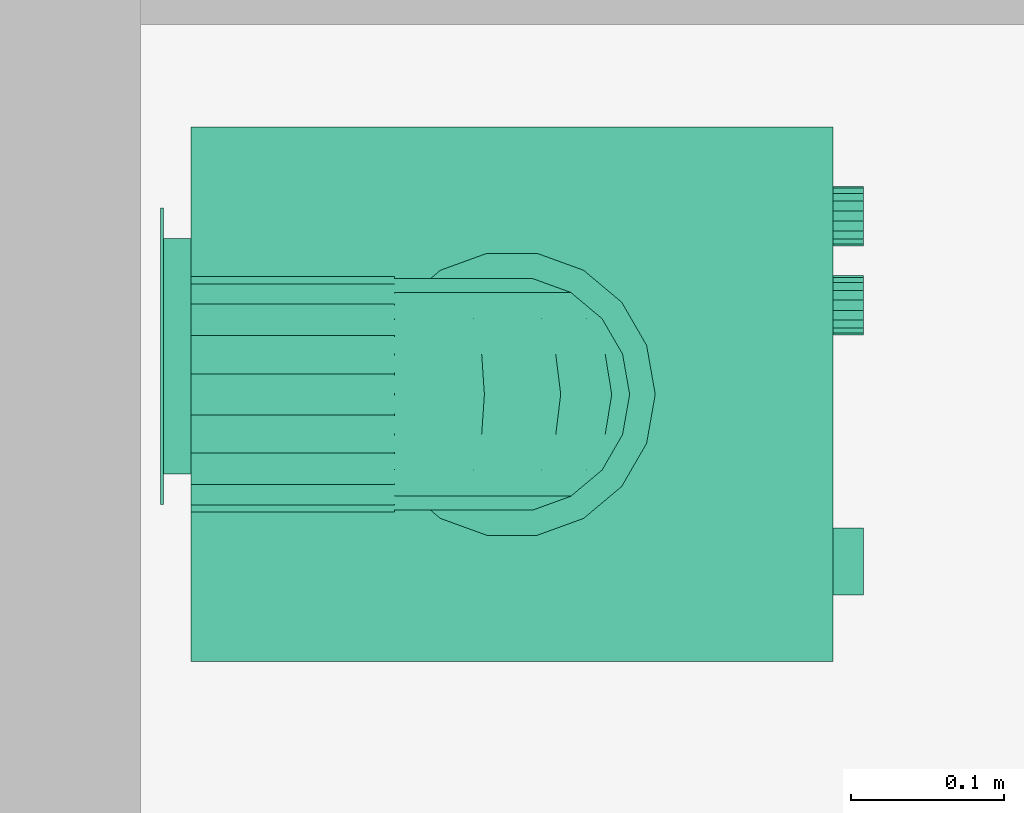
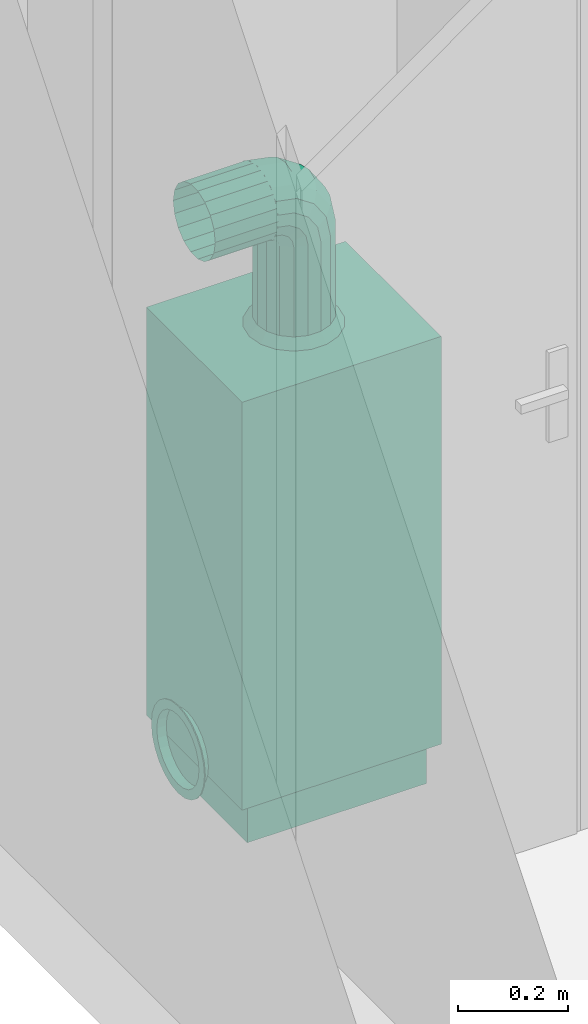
# One storey, part 121 of 171: 1 distribution element.
"""IFC2X3 building model written with IfcOpenShell, lengths in millimetres."""

from ifc_helpers import new_model, entity, si_unit, converted_unit, derived_unit, money_unit, direction, frame, origin_with_axes, place, context, subcontext, project, spatial, open_shell, faceted_brep, surface_model, source, transform, mapped, type_object, element, save


model = new_model("IFC2X3")

# Units and contexts
model_context = context("Model", 3, precision=0.01, world=origin_with_axes(), true_north=direction((0.0, 1.0)))
body_context = subcontext(model_context, "Body", "Model", "MODEL_VIEW")
ifc_project = project(units=[si_unit("LENGTHUNIT", "METRE", prefix="MILLI"), si_unit("AREAUNIT", "SQUARE_METRE"), si_unit("VOLUMEUNIT", "CUBIC_METRE"), converted_unit("PLANEANGLEUNIT", "DEGREE", entity("IfcPlaneAngleMeasure", 0.0174532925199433), si_unit("PLANEANGLEUNIT", "RADIAN"), dimensions=[0, 0, 0, 0, 0, 0, 0]), money_unit("USD"), converted_unit("TIMEUNIT", "Year", entity("IfcTimeMeasure", 31557600.0), si_unit("TIMEUNIT", "SECOND"), dimensions=[0, 0, 1, 0, 0, 0, 0]), si_unit("MASSUNIT", "GRAM", prefix="KILO"), si_unit("THERMODYNAMICTEMPERATUREUNIT", "DEGREE_CELSIUS"), si_unit("LUMINOUSINTENSITYUNIT", "LUMEN"), si_unit("ENERGYUNIT", "JOULE", prefix="MEGA"), derived_unit("THERMALCONDUCTANCEUNIT", [(si_unit("POWERUNIT", "WATT"), 1), (si_unit("LENGTHUNIT", "METRE"), -1), (si_unit("THERMODYNAMICTEMPERATUREUNIT", "KELVIN"), -1)]), derived_unit("SPECIFICHEATCAPACITYUNIT", [(si_unit("ENERGYUNIT", "JOULE"), 1), (si_unit("MASSUNIT", "GRAM", prefix="KILO"), -1), (si_unit("THERMODYNAMICTEMPERATUREUNIT", "KELVIN"), -1)]), derived_unit("MASSDENSITYUNIT", [(si_unit("MASSUNIT", "GRAM", prefix="KILO"), 1), (si_unit("VOLUMEUNIT", "CUBIC_METRE"), -1)])], contexts=[model_context])

# Site, building, storey
site_placement = place(None, origin_with_axes())
site = spatial("IfcSite", under=ifc_project, at=site_placement, Name="Site", CompositionType="ELEMENT")
building_placement = place(site_placement, origin_with_axes())
building = spatial("IfcBuilding", under=site, at=building_placement, Name="Bâtiment", CompositionType="ELEMENT")
storey_placement = place(building_placement, frame((0.0, 0.0, 3000.0), z_axis=(0.0, 0.0, 1.0), x_axis=(1.0, 0.0, 0.0)))
storey = spatial("IfcBuildingStorey", under=building, at=storey_placement, Name="rdc", CompositionType="ELEMENT", Elevation=3000.0)

# Distribution element
distribution_element_type = type_object("IfcDistributionElementType", Name="Chaudière à gaz 27")
shared_shape = source(origin_with_axes(), body_context, "Body", "SurfaceModel", [
    surface_model("IfcShellBasedSurfaceModel", [(200.0, 420.0, 34.90909090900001), (180.0709335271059, 420.0, 37.53280228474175), (180.0709335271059, 438.0, 37.53280228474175), (200.0, 438.0, 34.90909090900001), (161.5, 420.0, 45.22513481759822), (161.5, 438.0, 45.22513481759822), (219.9290664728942, 420.0, 37.53280228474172), (219.9290664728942, 438.0, 37.53280228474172), (145.5527778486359, 420.0, 57.46186875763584), (145.5527778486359, 438.0, 57.46186875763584), (238.5000000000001, 420.0, 45.22513481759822), (238.5000000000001, 438.0, 45.22513481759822), (133.3160439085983, 420.0, 73.409090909), (133.3160439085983, 438.0, 73.409090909), (254.4472221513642, 420.0, 57.46186875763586), (254.4472221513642, 438.0, 57.46186875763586), (125.6237113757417, 420.0, 91.9800244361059), (125.6237113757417, 438.0, 91.9800244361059), (266.6839560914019, 420.0, 73.40909090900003), (266.6839560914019, 438.0, 73.40909090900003), (123.0, 420.0, 111.909090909), (123.0, 438.0, 111.909090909), (274.3762886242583, 420.0, 91.98002443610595), (274.3762886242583, 438.0, 91.98002443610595), (125.6237113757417, 420.0, 131.8381573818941), (125.6237113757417, 438.0, 131.8381573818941), (277.0, 420.0, 111.909090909), (277.0, 438.0, 111.909090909), (133.3160439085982, 420.0, 150.409090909), (133.3160439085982, 438.0, 150.409090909), (274.3762886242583, 420.0, 131.8381573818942), (274.3762886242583, 438.0, 131.8381573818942), (145.5527778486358, 420.0, 166.3563130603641), (145.5527778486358, 438.0, 166.3563130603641), (266.6839560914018, 420.0, 150.4090909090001), (266.6839560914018, 438.0, 150.4090909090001), (161.5, 420.0, 178.5930470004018), (161.5, 438.0, 178.5930470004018), (254.4472221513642, 420.0, 166.3563130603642), (254.4472221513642, 438.0, 166.3563130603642), (180.0709335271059, 420.0, 186.2853795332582), (180.0709335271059, 438.0, 186.2853795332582), (238.5, 420.0, 178.5930470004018), (238.5, 438.0, 178.5930470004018), (200.0, 420.0, 188.909090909), (200.0, 438.0, 188.909090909), (219.929066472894, 420.0, 186.2853795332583), (219.929066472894, 438.0, 186.2853795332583)], [open_shell([[[0, 1, 2, 3]], [[1, 4, 5, 2]], [[6, 0, 3, 7]], [[4, 8, 9, 5]], [[10, 6, 7, 11]], [[8, 12, 13, 9]], [[14, 10, 11, 15]], [[12, 16, 17, 13]], [[18, 14, 15, 19]], [[16, 20, 21, 17]], [[22, 18, 19, 23]], [[20, 24, 25, 21]], [[26, 22, 23, 27]], [[24, 28, 29, 25]], [[30, 26, 27, 31]], [[28, 32, 33, 29]], [[34, 30, 31, 35]], [[32, 36, 37, 33]], [[38, 34, 35, 39]], [[36, 40, 41, 37]], [[42, 38, 39, 43]], [[40, 44, 45, 41]], [[46, 42, 43, 47]], [[44, 46, 47, 45]]])]),
    faceted_brep([(200.0, 438.0, 14.909090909), (174.8945526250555, 438.0, 18.21428575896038), (174.8945526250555, 440.0, 18.21428575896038), (200.0, 440.0, 14.909090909), (225.1054473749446, 438.0, 18.21428575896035), (248.5000000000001, 438.0, 27.90462674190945), (268.5893577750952, 438.0, 43.31973313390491), (284.0044641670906, 438.0, 63.40909090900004), (293.6948051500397, 438.0, 86.80364353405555), (297.0000000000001, 438.0, 111.909090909), (293.6948051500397, 438.0, 137.0145382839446), (284.0044641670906, 438.0, 160.4090909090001), (268.5893577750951, 438.0, 180.4984486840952), (248.5, 438.0, 195.9135550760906), (225.1054473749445, 438.0, 205.6038960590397), (199.9999999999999, 438.0, 208.909090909), (174.8945526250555, 438.0, 205.6038960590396), (151.5, 438.0, 195.9135550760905), (131.4106422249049, 438.0, 180.4984486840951), (115.9955358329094, 438.0, 160.409090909), (106.3051948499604, 438.0, 137.0145382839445), (103.0, 438.0, 111.909090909), (106.3051948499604, 438.0, 86.80364353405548), (115.9955358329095, 438.0, 63.40909090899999), (131.4106422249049, 438.0, 43.31973313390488), (151.5, 438.0, 27.90462674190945), (200.0, 438.0, 34.90909090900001), (180.0709335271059, 438.0, 37.53280228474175), (161.5, 438.0, 45.22513481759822), (145.5527778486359, 438.0, 57.46186875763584), (133.3160439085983, 438.0, 73.409090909), (125.6237113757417, 438.0, 91.9800244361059), (123.0, 438.0, 111.909090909), (125.6237113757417, 438.0, 131.8381573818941), (133.3160439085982, 438.0, 150.409090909), (145.5527778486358, 438.0, 166.3563130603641), (161.5, 438.0, 178.5930470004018), (180.0709335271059, 438.0, 186.2853795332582), (200.0, 438.0, 188.909090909), (219.929066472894, 438.0, 186.2853795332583), (238.5, 438.0, 178.5930470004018), (254.4472221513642, 438.0, 166.3563130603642), (266.6839560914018, 438.0, 150.4090909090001), (274.3762886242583, 438.0, 131.8381573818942), (277.0, 438.0, 111.909090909), (274.3762886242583, 438.0, 91.98002443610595), (266.6839560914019, 438.0, 73.40909090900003), (254.4472221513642, 438.0, 57.46186875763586), (238.5000000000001, 438.0, 45.22513481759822), (219.9290664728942, 438.0, 37.53280228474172), (151.5, 440.0, 27.90462674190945), (131.4106422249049, 440.0, 43.31973313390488), (115.9955358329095, 440.0, 63.40909090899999), (106.3051948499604, 440.0, 86.80364353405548), (103.0, 440.0, 111.909090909), (106.3051948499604, 440.0, 137.0145382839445), (115.9955358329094, 440.0, 160.409090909), (131.4106422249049, 440.0, 180.4984486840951), (151.5, 440.0, 195.9135550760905), (174.8945526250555, 440.0, 205.6038960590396), (199.9999999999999, 440.0, 208.909090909), (225.1054473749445, 440.0, 205.6038960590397), (248.5, 440.0, 195.9135550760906), (268.5893577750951, 440.0, 180.4984486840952), (284.0044641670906, 440.0, 160.4090909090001), (293.6948051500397, 440.0, 137.0145382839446), (297.0000000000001, 440.0, 111.909090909), (293.6948051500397, 440.0, 86.80364353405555), (284.0044641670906, 440.0, 63.40909090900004), (268.5893577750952, 440.0, 43.31973313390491), (248.5000000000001, 440.0, 27.90462674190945), (225.1054473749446, 440.0, 18.21428575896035), (200.0, 440.0, 34.90909090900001), (219.9290664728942, 440.0, 37.53280228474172), (238.5000000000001, 440.0, 45.22513481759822), (254.4472221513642, 440.0, 57.46186875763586), (266.6839560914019, 440.0, 73.40909090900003), (274.3762886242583, 440.0, 91.98002443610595), (277.0, 440.0, 111.909090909), (274.3762886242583, 440.0, 131.8381573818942), (266.6839560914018, 440.0, 150.4090909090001), (254.4472221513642, 440.0, 166.3563130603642), (238.5, 440.0, 178.5930470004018), (219.929066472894, 440.0, 186.2853795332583), (200.0, 440.0, 188.909090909), (180.0709335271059, 440.0, 186.2853795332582), (161.5, 440.0, 178.5930470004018), (145.5527778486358, 440.0, 166.3563130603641), (133.3160439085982, 440.0, 150.409090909), (125.6237113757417, 440.0, 131.8381573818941), (123.0, 440.0, 111.909090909), (125.6237113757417, 440.0, 91.9800244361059), (133.3160439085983, 440.0, 73.409090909), (145.5527778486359, 440.0, 57.46186875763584), (161.5, 440.0, 45.22513481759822), (180.0709335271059, 440.0, 37.53280228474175)], [[[0, 1, 2, 3]], [[0, 4, 5, 6, 7, 8, 9, 10, 11, 12, 13, 14, 15, 16, 17, 18, 19, 20, 21, 22, 23, 24, 25, 1], [26, 27, 28, 29, 30, 31, 32, 33, 34, 35, 36, 37, 38, 39, 40, 41, 42, 43, 44, 45, 46, 47, 48, 49]], [[1, 25, 50, 2]], [[3, 2, 50, 51, 52, 53, 54, 55, 56, 57, 58, 59, 60, 61, 62, 63, 64, 65, 66, 67, 68, 69, 70, 71], [72, 73, 74, 75, 76, 77, 78, 79, 80, 81, 82, 83, 84, 85, 86, 87, 88, 89, 90, 91, 92, 93, 94, 95]], [[4, 0, 3, 71]], [[5, 4, 71, 70]], [[6, 5, 70, 69]], [[7, 6, 69, 68]], [[8, 7, 68, 67]], [[9, 8, 67, 66]], [[10, 9, 66, 65]], [[11, 10, 65, 64]], [[12, 11, 64, 63]], [[13, 12, 63, 62]], [[14, 13, 62, 61]], [[15, 14, 61, 60]], [[16, 15, 60, 59]], [[17, 16, 59, 58]], [[18, 17, 58, 57]], [[19, 18, 57, 56]], [[20, 19, 56, 55]], [[21, 20, 55, 54]], [[22, 21, 54, 53]], [[23, 22, 53, 52]], [[24, 23, 52, 51]], [[25, 24, 51, 50]], [[27, 26, 72, 95]], [[28, 27, 95, 94]], [[29, 28, 94, 93]], [[30, 29, 93, 92]], [[31, 30, 92, 91]], [[32, 31, 91, 90]], [[33, 32, 90, 89]], [[34, 33, 89, 88]], [[35, 34, 88, 87]], [[36, 35, 87, 86]], [[37, 36, 86, 85]], [[38, 37, 85, 84]], [[39, 38, 84, 83]], [[40, 39, 83, 82]], [[41, 40, 82, 81]], [[42, 41, 81, 80]], [[43, 42, 80, 79]], [[44, 43, 79, 78]], [[45, 44, 78, 77]], [[46, 45, 77, 76]], [[47, 46, 76, 75]], [[48, 47, 75, 74]], [[49, 48, 74, 73]], [[26, 49, 73, 72]]]),
    faceted_brep([(332.5, 21.0, 0.0), (17.5, 21.0, 0.0), (17.5, 399.0, 0.0), (332.5, 399.0, 0.0), (332.5, 21.0, 90.9090909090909), (17.5, 21.0, 90.9090909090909), (17.5, 399.0, 90.9090909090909), (332.5, 399.0, 90.9090909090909)], [[[0, 1, 2, 3]], [[1, 0, 4, 5]], [[2, 1, 5, 6]], [[3, 2, 6, 7]], [[0, 3, 7, 4]], [[5, 4, 7, 6]]]),
    faceted_brep([(0.0, 420.0, 90.9090909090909), (0.0, 420.0, 1000.0), (349.9999999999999, 420.0, 1000.0), (350.0, 420.0, 90.90909090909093), (0.0, 0.0, 90.9090909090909), (0.0, 0.0, 818.1818181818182), (0.0, 21.0, 818.1818181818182), (0.0, 21.0, 1000.0), (349.9999999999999, 21.0, 1000.0), (349.9999999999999, 21.0, 818.1818181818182), (349.9999999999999, 0.0, 818.1818181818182), (350.0, 0.0, 90.90909090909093)], [[[0, 1, 2, 3]], [[0, 4, 5, 6, 7, 1]], [[1, 7, 8, 2]], [[3, 2, 8, 9, 10, 11]], [[4, 0, 3, 11]], [[5, 4, 11, 10]], [[6, 5, 10, 9]], [[7, 6, 9, 8]]]),
    faceted_brep([(350.0, 0.0, 818.1818181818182), (0.0, 0.0, 818.1818181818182), (0.0, 21.0, 818.1818181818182), (350.0, 21.0, 818.1818181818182), (350.0, 0.0, 1000.0), (0.0, 0.0, 1000.0), (0.0, 21.0, 1000.0), (350.0, 21.0, 1000.0)], [[[0, 1, 2, 3]], [[1, 0, 4, 5]], [[2, 1, 5, 6]], [[3, 2, 6, 7]], [[0, 3, 7, 4]], [[5, 4, 7, 6]]]),
    faceted_brep([(251.6051342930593, 0.0, 902.4405174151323), (248.2286419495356, 0.0, 896.592261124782), (243.0555555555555, 0.0, 892.2515262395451), (236.709825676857, 0.0, 889.9418694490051), (229.9568409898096, 0.0, 889.9418694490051), (223.6111111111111, 0.0, 892.2515262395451), (218.438024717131, 0.0, 896.5922611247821), (215.0615323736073, 0.0, 902.4405174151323), (213.8888888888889, 0.0, 909.0909090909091), (215.0615323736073, 0.0, 915.741300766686), (218.438024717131, 0.0, 921.5895570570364), (223.6111111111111, 0.0, 925.9302919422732), (229.9568409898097, 0.0, 928.2399487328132), (236.709825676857, 0.0, 928.2399487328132), (243.0555555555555, 0.0, 925.9302919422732), (248.2286419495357, 0.0, 921.5895570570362), (251.6051342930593, 0.0, 915.741300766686), (252.7777777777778, 0.0, 909.0909090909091), (251.6051342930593, -19.99999999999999, 902.4405174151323), (248.2286419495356, -19.99999999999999, 896.592261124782), (243.0555555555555, -19.99999999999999, 892.2515262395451), (236.709825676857, -19.99999999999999, 889.9418694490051), (229.9568409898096, -19.99999999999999, 889.9418694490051), (223.6111111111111, -19.99999999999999, 892.2515262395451), (218.438024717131, -19.99999999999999, 896.5922611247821), (215.0615323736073, -19.99999999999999, 902.4405174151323), (213.8888888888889, -19.99999999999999, 909.0909090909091), (215.0615323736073, -19.99999999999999, 915.741300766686), (218.438024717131, -19.99999999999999, 921.5895570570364), (223.6111111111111, -19.99999999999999, 925.9302919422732), (229.9568409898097, -19.99999999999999, 928.2399487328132), (236.709825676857, -19.99999999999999, 928.2399487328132), (243.0555555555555, -19.99999999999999, 925.9302919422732), (248.2286419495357, -19.99999999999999, 921.5895570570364), (251.6051342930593, -19.99999999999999, 915.741300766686), (252.7777777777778, -19.99999999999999, 909.0909090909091)], [[[0, 1, 2, 3, 4, 5, 6, 7, 8, 9, 10, 11, 12, 13, 14, 15, 16, 17]], [[1, 0, 18, 19]], [[2, 1, 19, 20]], [[3, 2, 20, 21]], [[4, 3, 21, 22]], [[5, 4, 22, 23]], [[6, 5, 23, 24]], [[7, 6, 24, 25]], [[8, 7, 25, 26]], [[9, 8, 26, 27]], [[10, 9, 27, 28]], [[11, 10, 28, 29]], [[12, 11, 29, 30]], [[13, 12, 30, 31]], [[14, 13, 31, 32]], [[15, 14, 32, 33]], [[16, 15, 33, 34]], [[17, 16, 34, 35]], [[0, 17, 35, 18]], [[18, 35, 34, 33, 32, 31, 30, 29, 28, 27, 26, 25, 24, 23, 22, 21, 20, 19]]]),
    faceted_brep([(309.9384676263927, 0.0, 902.4405174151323), (306.561975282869, 0.0, 896.592261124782), (301.3888888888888, 0.0, 892.2515262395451), (295.0431590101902, 0.0, 889.9418694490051), (288.290174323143, 0.0, 889.9418694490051), (281.9444444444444, 0.0, 892.2515262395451), (276.7713580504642, 0.0, 896.5922611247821), (273.3948657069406, 0.0, 902.4405174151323), (272.2222222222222, 0.0, 909.0909090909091), (273.3948657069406, 0.0, 915.741300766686), (276.7713580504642, 0.0, 921.5895570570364), (281.9444444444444, 0.0, 925.9302919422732), (288.290174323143, 0.0, 928.2399487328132), (295.0431590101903, 0.0, 928.2399487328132), (301.3888888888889, 0.0, 925.9302919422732), (306.561975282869, 0.0, 921.5895570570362), (309.9384676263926, 0.0, 915.741300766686), (311.1111111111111, 0.0, 909.0909090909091), (309.9384676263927, -19.99999999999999, 902.4405174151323), (306.561975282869, -19.99999999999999, 896.592261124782), (301.3888888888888, -19.99999999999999, 892.2515262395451), (295.0431590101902, -19.99999999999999, 889.9418694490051), (288.290174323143, -19.99999999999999, 889.9418694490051), (281.9444444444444, -19.99999999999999, 892.2515262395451), (276.7713580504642, -19.99999999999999, 896.5922611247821), (273.3948657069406, -19.99999999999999, 902.4405174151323), (272.2222222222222, -19.99999999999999, 909.0909090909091), (273.3948657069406, -19.99999999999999, 915.741300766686), (276.7713580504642, -19.99999999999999, 921.5895570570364), (281.9444444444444, -19.99999999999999, 925.9302919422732), (288.290174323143, -19.99999999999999, 928.2399487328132), (295.0431590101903, -19.99999999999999, 928.2399487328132), (301.3888888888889, -19.99999999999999, 925.9302919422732), (306.561975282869, -19.99999999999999, 921.5895570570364), (309.9384676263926, -19.99999999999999, 915.741300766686), (311.1111111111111, -19.99999999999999, 909.0909090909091)], [[[0, 1, 2, 3, 4, 5, 6, 7, 8, 9, 10, 11, 12, 13, 14, 15, 16, 17]], [[1, 0, 18, 19]], [[2, 1, 19, 20]], [[3, 2, 20, 21]], [[4, 3, 21, 22]], [[5, 4, 22, 23]], [[6, 5, 23, 24]], [[7, 6, 24, 25]], [[8, 7, 25, 26]], [[9, 8, 26, 27]], [[10, 9, 27, 28]], [[11, 10, 28, 29]], [[12, 11, 29, 30]], [[13, 12, 30, 31]], [[14, 13, 31, 32]], [[15, 14, 32, 33]], [[16, 15, 33, 34]], [[17, 16, 34, 35]], [[0, 17, 35, 18]], [[18, 35, 34, 33, 32, 31, 30, 29, 28, 27, 26, 25, 24, 23, 22, 21, 20, 19]]]),
    faceted_brep([(87.5, 0.0, 878.7878787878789), (43.75, 0.0, 878.7878787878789), (43.75, 0.0, 939.3939393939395), (87.5, 0.0, 939.3939393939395), (87.5, -20.0, 878.7878787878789), (43.75, -20.0, 878.7878787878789), (43.75, -19.99999999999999, 939.3939393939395), (87.5, -19.99999999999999, 939.3939393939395)], [[[0, 1, 2, 3]], [[1, 0, 4, 5]], [[2, 1, 5, 6]], [[3, 2, 6, 7]], [[0, 3, 7, 4]], [[5, 4, 7, 6]]]),
    surface_model("IfcShellBasedSurfaceModel", [(148.6644489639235, 282.356331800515, 1220.0), (175.0, 287.0, 1220.0), (175.0, 287.0, 1020.0), (148.6644489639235, 282.356331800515, 1020.0), (201.3355510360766, 282.356331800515, 1220.0), (201.3355510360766, 282.356331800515, 1020.0), (175.0, 303.7499999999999, 1000.0), (142.9356115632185, 298.0961831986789, 1000.0), (125.5053540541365, 268.9854221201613, 1220.0), (125.5053540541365, 268.9854221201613, 1020.0), (224.4946459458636, 268.9854221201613, 1220.0), (224.4946459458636, 268.9854221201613, 1020.0), (207.0643884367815, 298.0961831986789, 1000.0), (114.7386615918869, 281.8166665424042, 1000.0), (108.3160439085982, 248.5, 1220.0), (108.3160439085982, 248.5, 1020.0), (241.6839560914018, 248.4999999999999, 1220.0), (241.6839560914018, 248.4999999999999, 1020.0), (235.2613384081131, 281.8166665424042, 1000.0), (93.81011839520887, 256.8749999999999, 1000.0), (99.16980301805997, 223.3709096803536, 1220.0), (99.16980301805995, 223.3709096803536, 1020.0), (250.8301969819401, 223.3709096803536, 1220.0), (250.83019698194, 223.3709096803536, 1020.0), (256.1898816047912, 256.8749999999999, 1000.0), (82.6742731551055, 226.2795166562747, 1000.0), (99.16980301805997, 196.6290903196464, 1220.0), (99.16980301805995, 196.6290903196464, 1020.0), (250.83019698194, 196.6290903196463, 1220.0), (250.83019698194, 196.6290903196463, 1020.0), (267.3257268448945, 226.2795166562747, 1000.0), (82.67427315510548, 193.7204833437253, 1000.0), (108.3160439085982, 171.5, 1220.0), (108.3160439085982, 171.5, 1020.0), (241.6839560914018, 171.4999999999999, 1220.0), (241.6839560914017, 171.4999999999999, 1020.0), (267.3257268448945, 193.7204833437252, 1000.0), (93.81011839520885, 163.125, 1000.0), (125.5053540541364, 151.0145778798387, 1220.0), (125.5053540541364, 151.0145778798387, 1020.0), (224.4946459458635, 151.0145778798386, 1220.0), (224.4946459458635, 151.0145778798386, 1020.0), (256.1898816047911, 163.1249999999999, 1000.0), (114.7386615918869, 138.1833334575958, 1000.0), (148.6644489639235, 137.643668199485, 1220.0), (148.6644489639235, 137.643668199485, 1020.0), (201.3355510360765, 137.643668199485, 1220.0), (201.3355510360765, 137.643668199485, 1020.0), (235.261338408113, 138.1833334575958, 1000.0), (142.9356115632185, 121.9038168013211, 1000.0), (175.0, 133.0, 1220.0), (175.0, 133.0, 1020.0), (207.0643884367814, 121.9038168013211, 1000.0), (175.0, 116.25, 1000.0)], [open_shell([[[0, 1, 2, 3]], [[1, 4, 5, 2]], [[3, 2, 6, 7]], [[8, 0, 3, 9]], [[4, 10, 11, 5]], [[2, 5, 12, 6]], [[9, 3, 7, 13]], [[14, 8, 9, 15]], [[10, 16, 17, 11]], [[5, 11, 18, 12]], [[15, 9, 13, 19]], [[20, 14, 15, 21]], [[16, 22, 23, 17]], [[11, 17, 24, 18]], [[21, 15, 19, 25]], [[26, 20, 21, 27]], [[22, 28, 29, 23]], [[17, 23, 30, 24]], [[27, 21, 25, 31]], [[32, 26, 27, 33]], [[28, 34, 35, 29]], [[23, 29, 36, 30]], [[33, 27, 31, 37]], [[38, 32, 33, 39]], [[34, 40, 41, 35]], [[29, 35, 42, 36]], [[39, 33, 37, 43]], [[44, 38, 39, 45]], [[40, 46, 47, 41]], [[35, 41, 48, 42]], [[45, 39, 43, 49]], [[50, 44, 45, 51]], [[46, 50, 51, 47]], [[41, 47, 52, 48]], [[51, 45, 49, 53]], [[47, 51, 53, 52]]])]),
    faceted_brep([(99.16980301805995, 203.5081662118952, 1254.583449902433), (99.16980301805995, 196.6290903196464, 1220.0), (108.3160439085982, 171.5, 1220.0), (108.3160439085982, 180.2919139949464, 1264.199936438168), (99.16980301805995, 228.2143857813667, 1244.349798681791), (99.16980301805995, 223.3709096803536, 1220.0), (108.3160439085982, 248.5, 1220.0), (125.5053540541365, 268.9854221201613, 1220.0), (148.6644489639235, 282.356331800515, 1220.0), (175.0, 287.0, 1220.0), (201.3355510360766, 282.356331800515, 1220.0), (224.4946459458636, 268.9854221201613, 1220.0), (241.6839560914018, 248.4999999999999, 1220.0), (250.83019698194, 223.3709096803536, 1220.0), (250.83019698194, 196.6290903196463, 1220.0), (241.6839560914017, 171.4999999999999, 1220.0), (224.4946459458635, 151.0145778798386, 1220.0), (201.3355510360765, 137.643668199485, 1220.0), (175.0, 132.9999999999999, 1220.0), (148.6644489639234, 137.643668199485, 1220.0), (125.5053540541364, 151.0145778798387, 1220.0), (125.5053540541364, 161.3658517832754, 1272.039368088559), (99.16980301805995, 223.098116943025, 1283.901883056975), (108.3160439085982, 205.3291667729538, 1301.670833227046), (99.16980301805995, 242.0074387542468, 1264.992561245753), (108.3160439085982, 251.4306379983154, 1234.733312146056), (125.5053540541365, 270.3567002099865, 1226.893880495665), (148.6644489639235, 282.7098099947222, 1221.777054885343), (201.3355510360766, 282.7098099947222, 1221.777054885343), (224.4946459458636, 270.3567002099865, 1226.893880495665), (241.6839560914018, 251.4306379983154, 1234.733312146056), (250.83019698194, 228.2143857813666, 1244.349798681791), (250.83019698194, 203.5081662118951, 1254.583449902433), (241.6839560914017, 180.2919139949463, 1264.199936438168), (224.4946459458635, 161.3658517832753, 1272.039368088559), (201.3355510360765, 149.0127419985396, 1277.15619369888), (175.0, 144.7225519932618, 1278.933248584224), (148.6644489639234, 149.0127419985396, 1277.15619369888), (125.5053540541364, 190.8437858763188, 1316.156214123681), (108.3160439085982, 242.8000635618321, 1326.708086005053), (99.16980301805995, 252.4165500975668, 1303.491833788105), (99.16980301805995, 262.6502013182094, 1278.785614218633), (108.3160439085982, 259.7763889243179, 1247.223611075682), (125.5053540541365, 274.2617698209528, 1232.738230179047), (148.6644489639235, 283.7164307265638, 1223.283569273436), (201.3355510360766, 283.7164307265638, 1223.283569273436), (224.4946459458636, 274.2617698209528, 1232.738230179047), (241.6839560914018, 259.7763889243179, 1247.223611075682), (250.83019698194, 242.0074387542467, 1264.992561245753), (250.83019698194, 223.0981169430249, 1283.901883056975), (241.6839560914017, 205.3291667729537, 1301.670833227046), (224.4946459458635, 190.8437858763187, 1316.156214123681), (201.3355510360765, 181.3891249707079, 1325.610875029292), (175.0, 178.1055556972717, 1328.894444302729), (148.6644489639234, 181.3891249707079, 1325.610875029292), (125.5053540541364, 234.9606319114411, 1345.634148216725), (108.3160439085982, 287.0000000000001, 1335.5), (99.16980301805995, 287.0000000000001, 1310.370909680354), (99.16980301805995, 287.0000000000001, 1283.629090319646), (108.3160439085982, 272.266687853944, 1255.569362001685), (125.5053540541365, 280.1061195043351, 1236.643299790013), (148.6644489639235, 285.2229451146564, 1224.290190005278), (201.3355510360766, 285.2229451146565, 1224.290190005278), (224.4946459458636, 280.1061195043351, 1236.643299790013), (241.6839560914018, 272.266687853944, 1255.569362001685), (250.83019698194, 262.6502013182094, 1278.785614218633), (250.83019698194, 252.4165500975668, 1303.491833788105), (241.6839560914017, 242.8000635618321, 1326.708086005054), (224.4946459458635, 234.9606319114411, 1345.634148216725), (201.3355510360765, 229.8438063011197, 1357.98725800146), (175.0, 228.0667514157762, 1362.277448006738), (148.6644489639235, 229.8438063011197, 1357.98725800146), (125.5053540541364, 287.0000000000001, 1355.985422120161), (108.3160439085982, 287.0, 1258.5), (148.6644489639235, 287.0000000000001, 1369.356331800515), (175.0, 287.0000000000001, 1374.0), (201.3355510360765, 287.0000000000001, 1369.356331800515), (224.4946459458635, 287.0000000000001, 1355.985422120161), (241.6839560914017, 287.0000000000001, 1335.5), (250.83019698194, 287.0000000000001, 1310.370909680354), (250.83019698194, 287.0000000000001, 1283.629090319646), (241.6839560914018, 287.0, 1258.5), (224.4946459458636, 287.0, 1238.014577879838), (201.3355510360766, 287.0, 1224.643668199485), (148.6644489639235, 287.0, 1224.643668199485), (125.5053540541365, 287.0, 1238.014577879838)], [[[0, 1, 2, 3]], [[1, 0, 4, 5]], [[2, 1, 5, 6, 7, 8, 9, 10, 11, 12, 13, 14, 15, 16, 17, 18, 19, 20]], [[3, 2, 20, 21]], [[22, 0, 3, 23]], [[0, 22, 24, 4]], [[6, 5, 4, 25]], [[26, 7, 6, 25]], [[7, 26, 27, 8]], [[8, 27, 9]], [[28, 10, 9]], [[10, 28, 29, 11]], [[11, 29, 30, 12]], [[31, 13, 12, 30]], [[14, 13, 31, 32]], [[33, 15, 14, 32]], [[15, 33, 34, 16]], [[35, 17, 16, 34]], [[36, 18, 17, 35]], [[19, 18, 36, 37]], [[21, 20, 19, 37]], [[23, 3, 21, 38]], [[22, 23, 39, 40]], [[24, 22, 40, 41]], [[4, 24, 42, 25]], [[43, 26, 25, 42]], [[26, 43, 44, 27]], [[27, 44, 9]], [[45, 28, 9]], [[28, 45, 46, 29]], [[29, 46, 47, 30]], [[31, 30, 47, 48]], [[49, 32, 31, 48]], [[32, 49, 50, 33]], [[51, 34, 33, 50]], [[35, 34, 51, 52]], [[53, 36, 35, 52]], [[54, 37, 36, 53]], [[38, 21, 37, 54]], [[39, 23, 38, 55]], [[40, 39, 56, 57]], [[41, 40, 57, 58]], [[59, 42, 24, 41]], [[42, 59, 60, 43]], [[43, 60, 61, 44]], [[44, 61, 9]], [[62, 45, 9]], [[45, 62, 63, 46]], [[46, 63, 64, 47]], [[65, 48, 47, 64]], [[66, 49, 48, 65]], [[50, 49, 66, 67]], [[68, 51, 50, 67]], [[52, 51, 68, 69]], [[53, 52, 69, 70]], [[71, 54, 53, 70]], [[55, 38, 54, 71]], [[56, 39, 55, 72]], [[73, 58, 57, 56, 72, 74, 75, 76, 77, 78, 79, 80, 81, 82, 83, 9, 84, 85]], [[59, 41, 58, 73]], [[59, 73, 85, 60]], [[60, 85, 84, 61]], [[61, 84, 9]], [[62, 9, 83]], [[63, 62, 83, 82]], [[63, 82, 81, 64]], [[65, 64, 81, 80]], [[66, 65, 80, 79]], [[67, 66, 79, 78]], [[77, 68, 67, 78]], [[68, 77, 76, 69]], [[70, 69, 76, 75]], [[74, 71, 70, 75]], [[72, 55, 71, 74]]]),
    surface_model("IfcShellBasedSurfaceModel", [(102.6436681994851, 420.0, 1323.335551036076), (98.0, 420.0, 1297.0), (97.99999999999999, 287.0, 1297.0), (102.643668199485, 287.0, 1323.335551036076), (102.643668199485, 420.0, 1270.664448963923), (102.643668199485, 287.0, 1270.664448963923), (116.0145778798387, 420.0, 1346.494645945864), (116.0145778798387, 287.0, 1346.494645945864), (116.0145778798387, 420.0, 1247.505354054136), (116.0145778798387, 287.0, 1247.505354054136), (136.5, 420.0, 1363.683956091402), (136.5, 287.0, 1363.683956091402), (136.5, 420.0, 1230.316043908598), (136.5, 287.0, 1230.316043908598), (161.6290903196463, 420.0, 1372.83019698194), (161.6290903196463, 287.0, 1372.83019698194), (161.6290903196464, 420.0, 1221.16980301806), (161.6290903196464, 287.0, 1221.16980301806), (188.3709096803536, 420.0, 1372.83019698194), (188.3709096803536, 287.0, 1372.83019698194), (188.3709096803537, 420.0, 1221.16980301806), (188.3709096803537, 287.0, 1221.16980301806), (213.5, 420.0, 1363.683956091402), (213.5, 287.0, 1363.683956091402), (213.5000000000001, 420.0, 1230.316043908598), (213.5, 287.0, 1230.316043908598), (233.9854221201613, 420.0, 1346.494645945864), (233.9854221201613, 287.0, 1346.494645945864), (233.9854221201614, 420.0, 1247.505354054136), (233.9854221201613, 287.0, 1247.505354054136), (247.356331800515, 420.0, 1323.335551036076), (247.3563318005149, 287.0, 1323.335551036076), (247.356331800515, 420.0, 1270.664448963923), (247.356331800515, 287.0, 1270.664448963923), (252.0, 420.0, 1297.0), (252.0, 287.0, 1297.0)], [open_shell([[[0, 1, 2, 3]], [[1, 4, 5, 2]], [[6, 0, 3, 7]], [[4, 8, 9, 5]], [[10, 6, 7, 11]], [[8, 12, 13, 9]], [[14, 10, 11, 15]], [[12, 16, 17, 13]], [[18, 14, 15, 19]], [[16, 20, 21, 17]], [[22, 18, 19, 23]], [[20, 24, 25, 21]], [[26, 22, 23, 27]], [[24, 28, 29, 25]], [[30, 26, 27, 31]], [[28, 32, 33, 29]], [[34, 30, 31, 35]], [[32, 34, 35, 33]]])]),
])
distribution_element_placement = place(storey_placement, frame((2217427.273703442, -652829.875142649, 0.0), z_axis=(0.0, 0.0, 1.0), x_axis=(0.0, 1.0, 0.0)))
element("IfcDistributionElement", 1, at=distribution_element_placement, inside=storey, type_object=distribution_element_type, Name="Obj.-003", context=body_context, shape_type="MappedRepresentation", body=[
    mapped(shared_shape, transform((0.0, 0.0, 0.0))),
])

save(model, "model.ifc")
